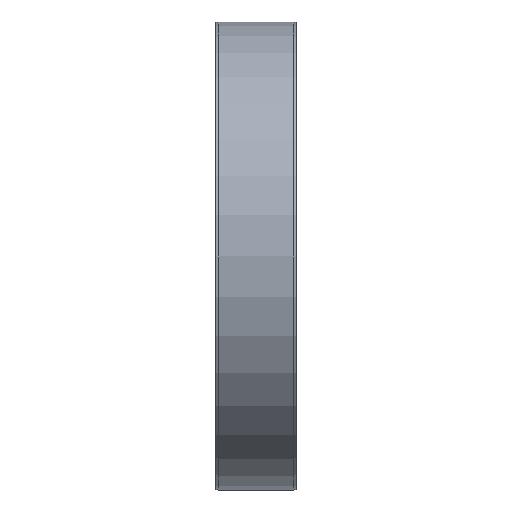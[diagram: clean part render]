
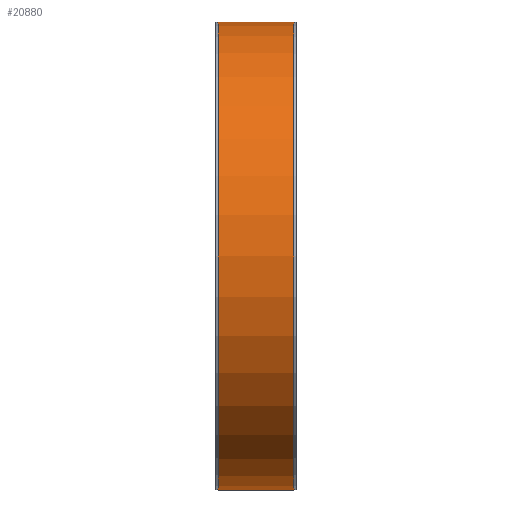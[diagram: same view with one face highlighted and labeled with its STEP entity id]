
A CAD part, left-side view. The second image highlights one B-rep face of the part: STEP entity #20880.
In plain terms, the highlighted cylindrical face has radius 40.526 mm (diameter 81.052 mm), a partial arc.
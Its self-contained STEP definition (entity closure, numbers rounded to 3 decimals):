
#567 = EDGE_CURVE ( 'NONE', #15710, #15480, #20726, .T. ) ;
#690 = DIRECTION ( 'NONE',  ( 0., 0., -1. ) ) ;
#923 = CIRCLE ( 'NONE', #21066, 40.526 ) ;
#1171 = VERTEX_POINT ( 'NONE', #13449 ) ;
#3270 = CARTESIAN_POINT ( 'NONE',  ( 0., 0.5, -40.526 ) ) ;
#3977 = LINE ( 'NONE', #15610, #23101 ) ;
#4993 = FACE_OUTER_BOUND ( 'NONE', #12925, .T. ) ;
#5548 = CARTESIAN_POINT ( 'NONE',  ( 0., 0.5, 40.526 ) ) ;
#5593 = EDGE_CURVE ( 'NONE', #15710, #1171, #10351, .T. ) ;
#5927 = ORIENTED_EDGE ( 'NONE', *, *, #16857, .F. ) ;
#6336 = CARTESIAN_POINT ( 'NONE',  ( 0., 0., 40.526 ) ) ;
#7904 = VECTOR ( 'NONE', #15274, 1000. ) ;
#8840 = CARTESIAN_POINT ( 'NONE',  ( 0., 0., 0. ) ) ;
#9374 = EDGE_CURVE ( 'NONE', #1171, #10184, #3977, .T. ) ;
#9720 = DIRECTION ( 'NONE',  ( 0., 0., -1. ) ) ;
#10126 = DIRECTION ( 'NONE',  ( 0., -1., 0. ) ) ;
#10184 = VERTEX_POINT ( 'NONE', #3270 ) ;
#10351 = CIRCLE ( 'NONE', #21393, 40.526 ) ;
#11355 = ORIENTED_EDGE ( 'NONE', *, *, #9374, .T. ) ;
#12530 = CYLINDRICAL_SURFACE ( 'NONE', #12680, 40.526 ) ;
#12680 = AXIS2_PLACEMENT_3D ( 'NONE', #8840, #14641, #12781 ) ;
#12781 = DIRECTION ( 'NONE',  ( 0., 0., -1. ) ) ;
#12925 = EDGE_LOOP ( 'NONE', ( #20139, #14675, #11355, #5927 ) ) ;
#13449 = CARTESIAN_POINT ( 'NONE',  ( 0., 13.5, -40.526 ) ) ;
#14641 = DIRECTION ( 'NONE',  ( 0., -1., 0. ) ) ;
#14675 = ORIENTED_EDGE ( 'NONE', *, *, #5593, .T. ) ;
#15274 = DIRECTION ( 'NONE',  ( 0., -1., 0. ) ) ;
#15480 = VERTEX_POINT ( 'NONE', #5548 ) ;
#15610 = CARTESIAN_POINT ( 'NONE',  ( 0., 0., -40.526 ) ) ;
#15710 = VERTEX_POINT ( 'NONE', #16897 ) ;
#16857 = EDGE_CURVE ( 'NONE', #15480, #10184, #923, .T. ) ;
#16897 = CARTESIAN_POINT ( 'NONE',  ( 0., 13.5, 40.526 ) ) ;
#16901 = DIRECTION ( 'NONE',  ( 0., -1., 0. ) ) ;
#17782 = CARTESIAN_POINT ( 'NONE',  ( 0., 13.5, 0. ) ) ;
#19122 = CARTESIAN_POINT ( 'NONE',  ( 0., 0.5, 0. ) ) ;
#20139 = ORIENTED_EDGE ( 'NONE', *, *, #567, .F. ) ;
#20726 = LINE ( 'NONE', #6336, #7904 ) ;
#20880 = ADVANCED_FACE ( 'NONE', ( #4993 ), #12530, .T. ) ;
#21066 = AXIS2_PLACEMENT_3D ( 'NONE', #19122, #16901, #9720 ) ;
#21393 = AXIS2_PLACEMENT_3D ( 'NONE', #17782, #10126, #690 ) ;
#23101 = VECTOR ( 'NONE', #23152, 1000. ) ;
#23152 = DIRECTION ( 'NONE',  ( 0., -1., 0. ) ) ;
